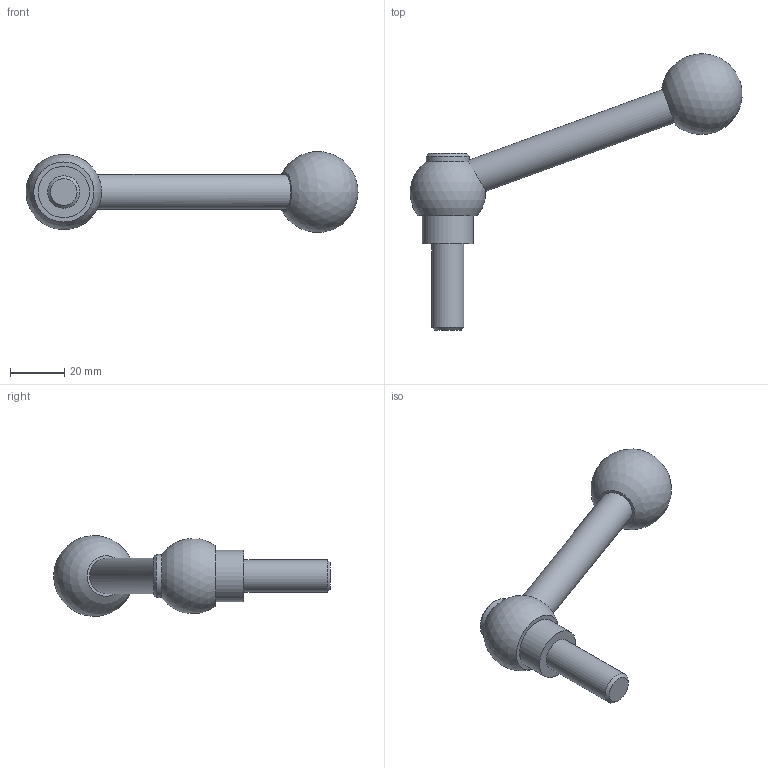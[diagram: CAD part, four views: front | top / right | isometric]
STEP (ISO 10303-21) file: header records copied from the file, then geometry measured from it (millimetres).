
FILE_DESCRIPTION( ( 'STEP AP203' ), '1' );
FILE_NAME( 'C:/Temp/Ganter_Step_05_03_2020/data/2_1/gn_6337_3/gn_6337_3_ms/gn_6337_3_ms_n/Adjustable clamping lever with bolt GN 6337.3-28-M12-32-N.stp', '2020-03-05T11:41:19', ( 'License CC BY-ND 4.0' ), ( 'CADENAS' ), ' ', 'PARTsolutions', ' ' );
FILE_SCHEMA( ( 'CONFIG_CONTROL_DESIGN' ) );
Length unit declared in the file: millimetre
Products named in the file (1): _Adjustable clamping lever with bolt GN 6337.3-28-M12-32-N
Bounding box: 122.95 x 102.49 x 29.7 mm (x, y, z)
Volume: 41115.2 mm3; surface area: 9902.2 mm2
Topology: 1 solids, 1 shells, 13 faces, 25 edges, 16 vertices
Faces by surface type: plane 5, cylinder 4, cone 2, sphere 2
Full cylindrical faces by diameter (mm): 12 x1, 13 x1, 15.969 x1, 19 x1
Entity records: 386 total; most frequent: CARTESIAN_POINT 124, DIRECTION 50, ORIENTED_EDGE 26, AXIS2_PLACEMENT_3D 25, EDGE_LOOP 23, FACE_OUTER_BOUND 18, ADVANCED_FACE 13, VERTEX_POINT 13
